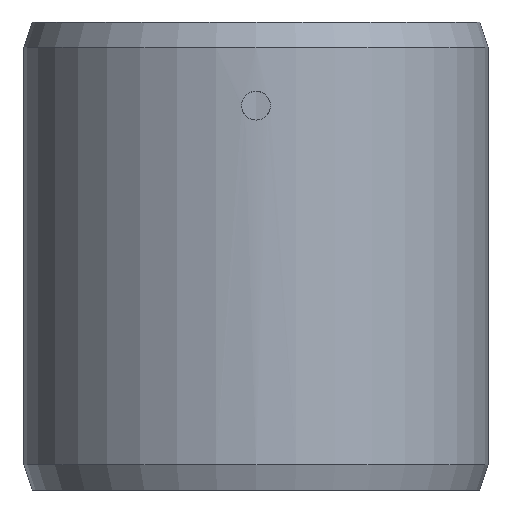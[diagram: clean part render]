
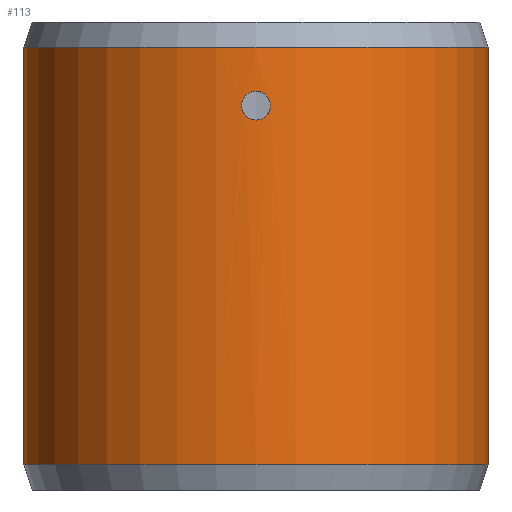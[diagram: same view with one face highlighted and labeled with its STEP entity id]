
A CAD part, front view. The second image highlights one B-rep face of the part: STEP entity #113.
In plain terms, the highlighted cylindrical face has radius 27.781 mm (diameter 55.562 mm), a partial arc.
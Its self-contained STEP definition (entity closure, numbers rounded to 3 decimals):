
#27 = VECTOR ( 'NONE', #261, 1000. ) ;
#31 = CARTESIAN_POINT ( 'NONE',  ( 0.868, -27.768, 19.51 ) ) ;
#35 = CARTESIAN_POINT ( 'NONE',  ( 1.716, -27.728, 18.228 ) ) ;
#36 = CARTESIAN_POINT ( 'NONE',  ( 0., -27.781, 16.273 ) ) ;
#40 = ORIENTED_EDGE ( 'NONE', *, *, #777, .T. ) ;
#44 = AXIS2_PLACEMENT_3D ( 'NONE', #399, #238, #245 ) ;
#46 = CARTESIAN_POINT ( 'NONE',  ( -0.867, -27.768, 19.498 ) ) ;
#51 = CARTESIAN_POINT ( 'NONE',  ( -0.766, -27.771, 19.552 ) ) ;
#55 = CARTESIAN_POINT ( 'NONE',  ( -1.054, -27.761, 19.373 ) ) ;
#56 = CARTESIAN_POINT ( 'NONE',  ( -27.781, 0., -25. ) ) ;
#57 = EDGE_CURVE ( 'NONE', #477, #437, #84, .T. ) ;
#62 = CARTESIAN_POINT ( 'NONE',  ( 27.781, 0., 28. ) ) ;
#68 = DIRECTION ( 'NONE',  ( 0., 0., -1. ) ) ;
#70 = B_SPLINE_CURVE_WITH_KNOTS ( 'NONE', 3,
 ( #767, #554, #395, #31, #642, #414, #855, #188, #418, #492, #262, #35, #709, #785, #574, #488, #106, #571, #939, #340, #851, #336, #122, #728 ),
 .UNSPECIFIED., .F., .F.,
 ( 4, 2, 2, 2, 2, 2, 2, 2, 2, 2, 2, 4 ),
 ( 0.005, 0.006, 0.007, 0.007, 0.007, 0.008, 0.008, 0.009, 0.009, 0.009, 0.01, 0.011 ),
 .UNSPECIFIED. ) ;
#84 = LINE ( 'NONE', #185, #861 ) ;
#102 = CIRCLE ( 'NONE', #224, 27.781 ) ;
#106 = CARTESIAN_POINT ( 'NONE',  ( 1.5, -27.741, 17.136 ) ) ;
#110 = VERTEX_POINT ( 'NONE', #416 ) ;
#111 = CARTESIAN_POINT ( 'NONE',  ( -1.053, -27.761, 16.626 ) ) ;
#113 = ADVANCED_FACE ( 'NONE', ( #580, #442 ), #213, .T. ) ;
#122 = CARTESIAN_POINT ( 'NONE',  ( 0.228, -27.781, 16.273 ) ) ;
#125 = CARTESIAN_POINT ( 'NONE',  ( -1.672, -27.731, 18.448 ) ) ;
#128 = CARTESIAN_POINT ( 'NONE',  ( -0.449, -27.778, 19.672 ) ) ;
#164 = ORIENTED_EDGE ( 'NONE', *, *, #967, .T. ) ;
#173 = CARTESIAN_POINT ( 'NONE',  ( 0., -27.781, 16.273 ) ) ;
#185 = CARTESIAN_POINT ( 'NONE',  ( -27.781, 0., 28. ) ) ;
#188 = CARTESIAN_POINT ( 'NONE',  ( 1.499, -27.741, 18.866 ) ) ;
#190 = CARTESIAN_POINT ( 'NONE',  ( -1.727, -27.728, 17.774 ) ) ;
#207 = CARTESIAN_POINT ( 'NONE',  ( -0.113, -27.781, 19.727 ) ) ;
#213 = CYLINDRICAL_SURFACE ( 'NONE', #429, 27.781 ) ;
#224 = AXIS2_PLACEMENT_3D ( 'NONE', #239, #764, #320 ) ;
#238 = DIRECTION ( 'NONE',  ( 0., 0., -1. ) ) ;
#239 = CARTESIAN_POINT ( 'NONE',  ( 0., 0., -25. ) ) ;
#245 = DIRECTION ( 'NONE',  ( 1., 0., 0. ) ) ;
#258 = EDGE_CURVE ( 'NONE', #483, #975, #302, .T. ) ;
#261 = DIRECTION ( 'NONE',  ( 0., 0., -1. ) ) ;
#262 = CARTESIAN_POINT ( 'NONE',  ( 1.672, -27.731, 18.448 ) ) ;
#302 = B_SPLINE_CURVE_WITH_KNOTS ( 'NONE', 3,
 ( #36, #948, #867, #646, #576, #863, #857, #111, #419, #945, #494, #644, #190, #876, #512, #125, #360, #804, #885, #438, #963, #516, #55, #46, #51, #960, #128, #590, #207, #662 ),
 .UNSPECIFIED., .F., .F.,
 ( 4, 2, 2, 2, 2, 2, 2, 2, 2, 2, 2, 2, 2, 2, 4 ),
 ( 0., 0., 0.001, 0.001, 0.001, 0.002, 0.003, 0.003, 0.003, 0.004, 0.004, 0.004, 0.005, 0.005, 0.005 ),
 .UNSPECIFIED. ) ;
#320 = DIRECTION ( 'NONE',  ( 1., 0., 0. ) ) ;
#336 = CARTESIAN_POINT ( 'NONE',  ( 0.455, -27.778, 16.319 ) ) ;
#340 = CARTESIAN_POINT ( 'NONE',  ( 1.063, -27.761, 16.62 ) ) ;
#360 = CARTESIAN_POINT ( 'NONE',  ( -1.639, -27.733, 18.556 ) ) ;
#393 = EDGE_CURVE ( 'NONE', #110, #530, #802, .T. ) ;
#395 = CARTESIAN_POINT ( 'NONE',  ( 0.453, -27.778, 19.682 ) ) ;
#399 = CARTESIAN_POINT ( 'NONE',  ( 0., 0., 25. ) ) ;
#411 = ORIENTED_EDGE ( 'NONE', *, *, #393, .F. ) ;
#414 = CARTESIAN_POINT ( 'NONE',  ( 1.3, -27.751, 19.143 ) ) ;
#416 = CARTESIAN_POINT ( 'NONE',  ( 27.781, 0., 25. ) ) ;
#418 = CARTESIAN_POINT ( 'NONE',  ( 1.552, -27.738, 18.767 ) ) ;
#419 = CARTESIAN_POINT ( 'NONE',  ( -1.142, -27.758, 16.699 ) ) ;
#429 = AXIS2_PLACEMENT_3D ( 'NONE', #733, #509, #899 ) ;
#437 = VERTEX_POINT ( 'NONE', #56 ) ;
#438 = CARTESIAN_POINT ( 'NONE',  ( -1.374, -27.747, 19.053 ) ) ;
#442 = FACE_BOUND ( 'NONE', #499, .T. ) ;
#477 = VERTEX_POINT ( 'NONE', #928 ) ;
#483 = VERTEX_POINT ( 'NONE', #173 ) ;
#488 = CARTESIAN_POINT ( 'NONE',  ( 1.553, -27.738, 17.235 ) ) ;
#492 = CARTESIAN_POINT ( 'NONE',  ( 1.638, -27.733, 18.558 ) ) ;
#494 = CARTESIAN_POINT ( 'NONE',  ( -1.51, -27.74, 17.131 ) ) ;
#499 = EDGE_LOOP ( 'NONE', ( #735, #40 ) ) ;
#503 = CIRCLE ( 'NONE', #44, 27.781 ) ;
#509 = DIRECTION ( 'NONE',  ( 0., 0., -1. ) ) ;
#512 = CARTESIAN_POINT ( 'NONE',  ( -1.716, -27.728, 18.227 ) ) ;
#516 = CARTESIAN_POINT ( 'NONE',  ( -1.141, -27.758, 19.302 ) ) ;
#530 = VERTEX_POINT ( 'NONE', #913 ) ;
#554 = CARTESIAN_POINT ( 'NONE',  ( 0.225, -27.781, 19.727 ) ) ;
#571 = CARTESIAN_POINT ( 'NONE',  ( 1.375, -27.747, 16.948 ) ) ;
#574 = CARTESIAN_POINT ( 'NONE',  ( 1.683, -27.73, 17.549 ) ) ;
#576 = CARTESIAN_POINT ( 'NONE',  ( -0.557, -27.776, 16.361 ) ) ;
#580 = FACE_OUTER_BOUND ( 'NONE', #658, .T. ) ;
#590 = CARTESIAN_POINT ( 'NONE',  ( -0.227, -27.781, 19.716 ) ) ;
#611 = ORIENTED_EDGE ( 'NONE', *, *, #741, .T. ) ;
#621 = CARTESIAN_POINT ( 'NONE',  ( 0., -27.781, 19.727 ) ) ;
#642 = CARTESIAN_POINT ( 'NONE',  ( 1.061, -27.761, 19.381 ) ) ;
#644 = CARTESIAN_POINT ( 'NONE',  ( -1.682, -27.73, 17.547 ) ) ;
#646 = CARTESIAN_POINT ( 'NONE',  ( -0.447, -27.778, 16.328 ) ) ;
#658 = EDGE_LOOP ( 'NONE', ( #411, #611, #721, #164 ) ) ;
#662 = CARTESIAN_POINT ( 'NONE',  ( 0., -27.781, 19.727 ) ) ;
#709 = CARTESIAN_POINT ( 'NONE',  ( 1.727, -27.728, 18.115 ) ) ;
#721 = ORIENTED_EDGE ( 'NONE', *, *, #57, .T. ) ;
#728 = CARTESIAN_POINT ( 'NONE',  ( 0., -27.781, 16.273 ) ) ;
#733 = CARTESIAN_POINT ( 'NONE',  ( 0., 0., 28. ) ) ;
#735 = ORIENTED_EDGE ( 'NONE', *, *, #258, .T. ) ;
#741 = EDGE_CURVE ( 'NONE', #110, #477, #503, .T. ) ;
#764 = DIRECTION ( 'NONE',  ( 0., 0., 1. ) ) ;
#767 = CARTESIAN_POINT ( 'NONE',  ( 0., -27.781, 19.727 ) ) ;
#777 = EDGE_CURVE ( 'NONE', #975, #483, #70, .T. ) ;
#785 = CARTESIAN_POINT ( 'NONE',  ( 1.727, -27.727, 17.773 ) ) ;
#802 = LINE ( 'NONE', #62, #27 ) ;
#804 = CARTESIAN_POINT ( 'NONE',  ( -1.553, -27.738, 18.765 ) ) ;
#851 = CARTESIAN_POINT ( 'NONE',  ( 0.87, -27.768, 16.491 ) ) ;
#855 = CARTESIAN_POINT ( 'NONE',  ( 1.373, -27.747, 19.054 ) ) ;
#857 = CARTESIAN_POINT ( 'NONE',  ( -0.865, -27.768, 16.501 ) ) ;
#861 = VECTOR ( 'NONE', #68, 1000. ) ;
#863 = CARTESIAN_POINT ( 'NONE',  ( -0.766, -27.771, 16.448 ) ) ;
#867 = CARTESIAN_POINT ( 'NONE',  ( -0.226, -27.781, 16.284 ) ) ;
#876 = CARTESIAN_POINT ( 'NONE',  ( -1.727, -27.728, 18.112 ) ) ;
#885 = CARTESIAN_POINT ( 'NONE',  ( -1.499, -27.741, 18.866 ) ) ;
#899 = DIRECTION ( 'NONE',  ( -1., 0., 0. ) ) ;
#913 = CARTESIAN_POINT ( 'NONE',  ( 27.781, 0., -25. ) ) ;
#928 = CARTESIAN_POINT ( 'NONE',  ( -27.781, 0., 25. ) ) ;
#939 = CARTESIAN_POINT ( 'NONE',  ( 1.302, -27.751, 16.859 ) ) ;
#945 = CARTESIAN_POINT ( 'NONE',  ( -1.381, -27.747, 16.938 ) ) ;
#948 = CARTESIAN_POINT ( 'NONE',  ( -0.114, -27.781, 16.273 ) ) ;
#960 = CARTESIAN_POINT ( 'NONE',  ( -0.556, -27.776, 19.639 ) ) ;
#963 = CARTESIAN_POINT ( 'NONE',  ( -1.302, -27.751, 19.14 ) ) ;
#967 = EDGE_CURVE ( 'NONE', #437, #530, #102, .T. ) ;
#975 = VERTEX_POINT ( 'NONE', #621 ) ;
